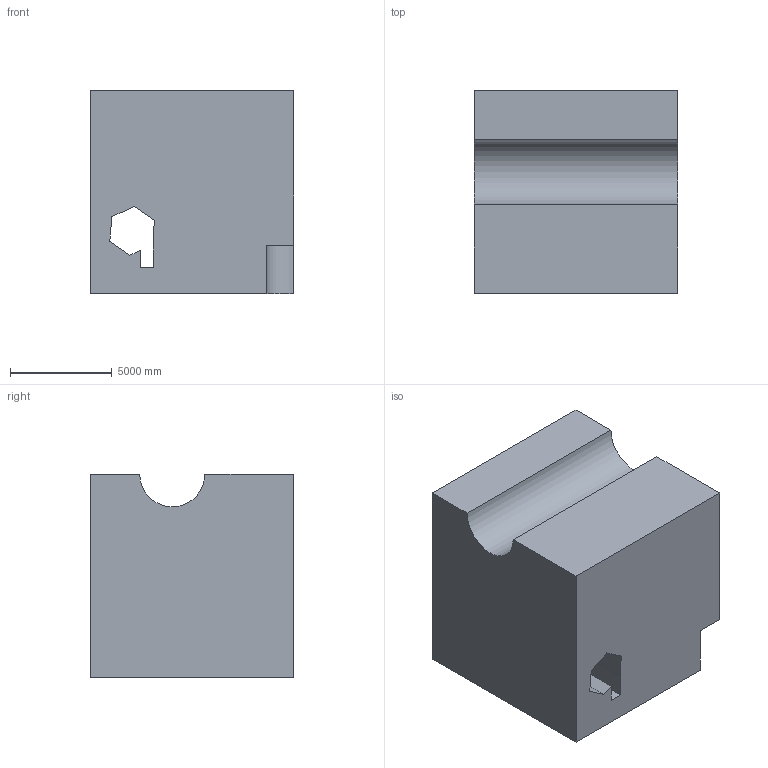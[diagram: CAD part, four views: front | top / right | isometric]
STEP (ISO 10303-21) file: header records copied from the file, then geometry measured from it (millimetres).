
FILE_DESCRIPTION (( 'STEP AP203' ), '1' );
FILE_NAME ('139.STEP', '2022-09-06T15:11:29', ( 'user' ), ( '' ), 'SwSTEP 2.0', 'SolidWorks 2021', '' );
FILE_SCHEMA (( 'CONFIG_CONTROL_DESIGN' ));
Length unit declared in the file: centimetre
Products named in the file (1): 139
Bounding box: 10000 x 10000 x 10000 mm (x, y, z)
Volume: 911991042991.4 mm3; surface area: 691790207.3 mm2
Topology: 1 solids, 1 shells, 19 faces, 51 edges, 34 vertices
Faces by surface type: plane 17, cylinder 2
Entity records: 670 total; most frequent: CARTESIAN_POINT 105, ORIENTED_EDGE 102, DIRECTION 95, EDGE_CURVE 51, LINE 47, VECTOR 47, VERTEX_POINT 34, AXIS2_PLACEMENT_3D 24
